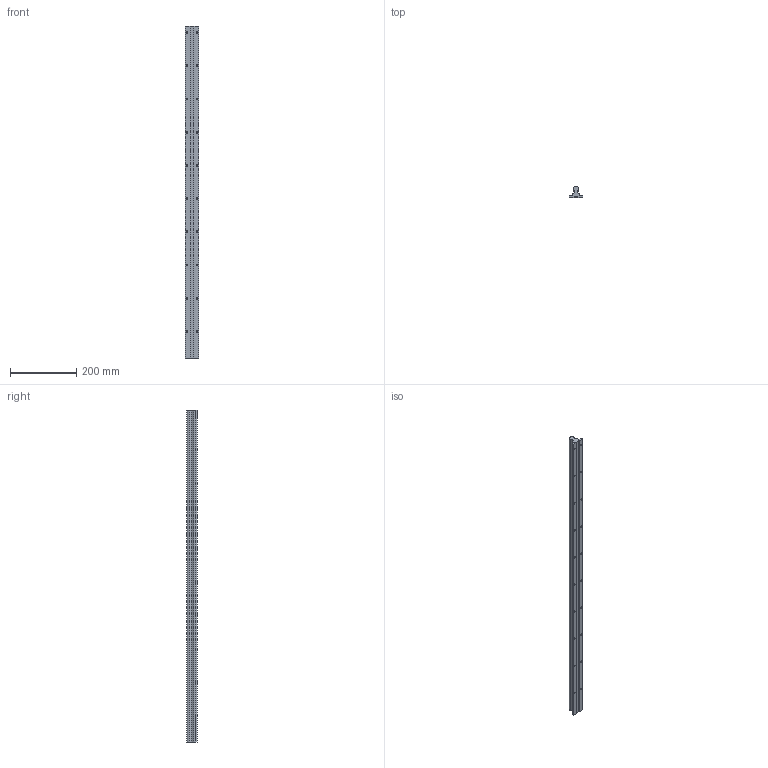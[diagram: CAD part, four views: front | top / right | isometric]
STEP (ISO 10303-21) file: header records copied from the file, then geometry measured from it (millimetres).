
FILE_DESCRIPTION (( 'STEP AP214' ), '1' );
FILE_NAME ('2.6102 Johdeakseli SBR16.STEP', '2024-06-03T12:50:35', ( '' ), ( '' ), 'SwSTEP 2.0', 'SolidWorks 2024', '' );
FILE_SCHEMA (( 'AUTOMOTIVE_DESIGN' ));
Length unit declared in the file: millimetre
Products named in the file (1): 2.6102 Johdeakseli SBR16
Bounding box: 40 x 33 x 1000 mm (x, y, z)
Volume: 576383.7 mm3; surface area: 149896.9 mm2
Topology: 1 solids, 1 shells, 62 faces, 180 edges, 120 vertices
Faces by surface type: cylinder 43, plane 19
Entity records: 2237 total; most frequent: DIRECTION 392, CARTESIAN_POINT 363, ORIENTED_EDGE 360, EDGE_CURVE 180, AXIS2_PLACEMENT_3D 149, VERTEX_POINT 120, EDGE_LOOP 102, LINE 94
